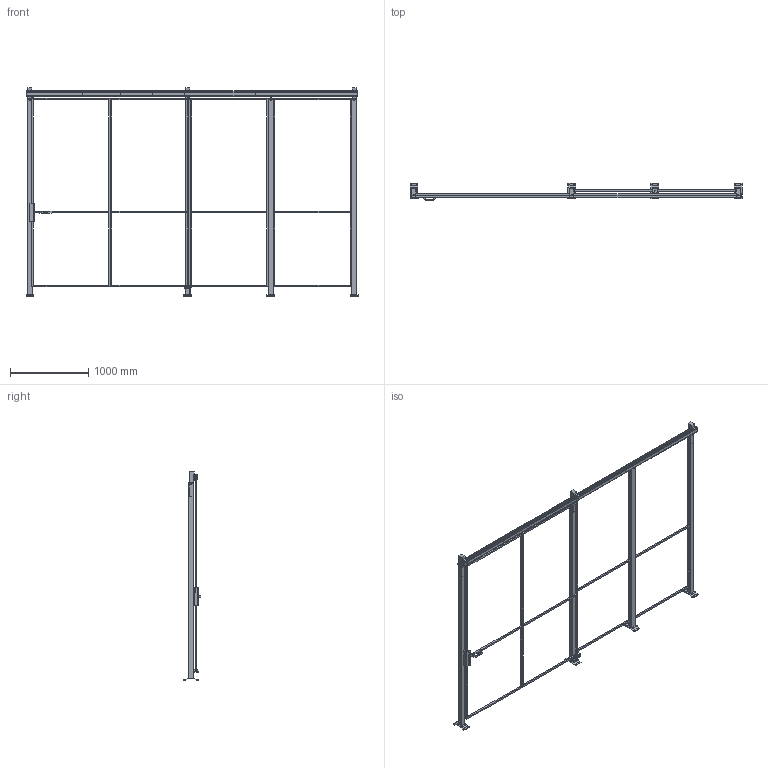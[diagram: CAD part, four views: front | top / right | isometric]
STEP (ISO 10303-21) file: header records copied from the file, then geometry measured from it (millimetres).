
FILE_DESCRIPTION(/* description */ (''),/* implementation_level */ '2;1');
FILE_NAME(/* name */ 'C:\SafeGuarding\ELABORATI\VZOR§POSUVNE_2025-02-05-13-50-15.stp',/* time_stamp */ '2025-02-05T13:50:16+01:00',/* author */ ('admin'),/* organization */ (''),/* preprocessor_version */ 'ST-DEVELOPER v18.1',/* originating_system */ 'AutoCAD Mechanical',/* authorisation */ '');
FILE_SCHEMA (('AUTOMOTIVE_DESIGN { 1 0 10303 214 3 1 1 }'));
Length unit declared in the file: millimetre
Products named in the file (4): Product; VFPA.REPE2010002400; DATI_PORTA; P_VFMA.ME60SDU.2520
Assembly tree (9 placements, depth 2):
  Product
    VFPA.REPE2010002400  x4
    P_VFMA.ME60SDU.2520  x4
    DATI_PORTA
Bounding box: 4230 x 219.95 x 2654 mm (x, y, z)
Volume: 58345299 mm3; surface area: 7729652.5 mm2
Topology: 34 solids, 45 shells, 603 faces, 2108 edges, 2065 vertices
Faces by surface type: plane 555, cylinder 46, sphere 2
Full cylindrical faces by diameter (mm): 11 x16, 12 x2, 15 x4, 40 x4
Entity records: 13914 total; most frequent: CARTESIAN_POINT 2880, DIRECTION 2110, ORIENTED_EDGE 2094, EDGE_CURVE 1096, LINE 1036, VECTOR 1036, VERTEX_POINT 772, AXIS2_PLACEMENT_3D 537
